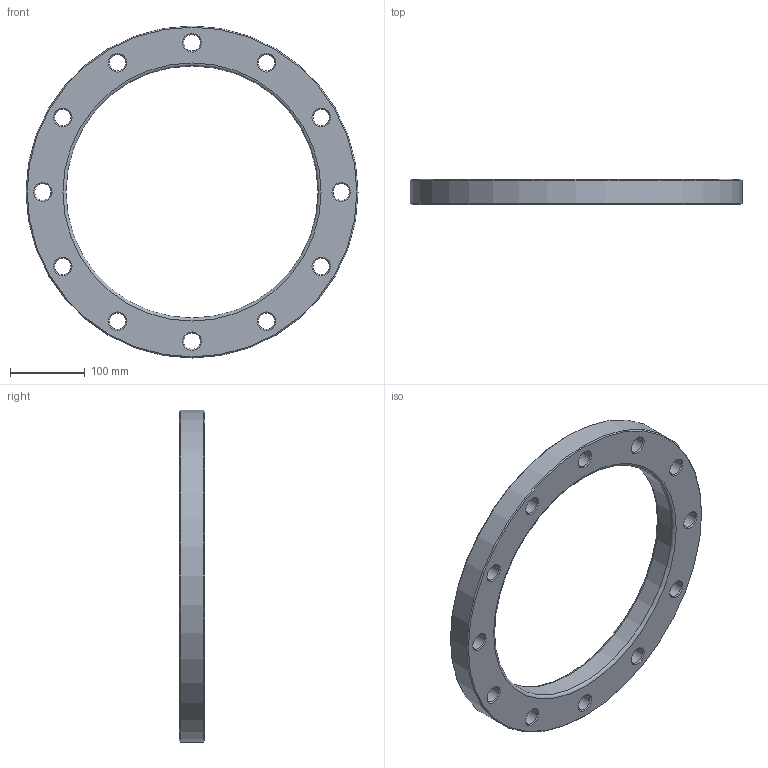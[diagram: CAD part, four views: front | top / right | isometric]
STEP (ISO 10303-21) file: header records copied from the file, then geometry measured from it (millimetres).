
FILE_DESCRIPTION(/* description */ ('Unknown'),/* implementation_level */ '2;1');
FILE_NAME(/* name */ 'FR315B',/* time_stamp */ '2022-07-06T10:19:26+02:00',/* author */ ('Unknown'),/* organization */ ('Unknown'),/* preprocessor_version */ 'ST-DEVELOPER v18.102',/* originating_system */ 'Solid Edge',/* authorisation */ 'Unknown');
FILE_SCHEMA (('AUTOMOTIVE_DESIGN {1 0 10303 214 3 1 1}'));
Length unit declared in the file: millimetre
Products named in the file (1): FR315B
Bounding box: 445 x 34 x 445 mm (x, y, z)
Volume: 2069734.9 mm3; surface area: 226832.4 mm2
Topology: 1 solids, 1 shells, 44 faces, 134 edges, 92 vertices
Faces by surface type: cone 26, cylinder 14, plane 2, torus 2
Full cylindrical faces by diameter (mm): 22 x12, 338 x1, 445 x1
Entity records: 1086 total; most frequent: DIRECTION 202, CARTESIAN_POINT 157, ORIENTED_EDGE 112, EDGE_LOOP 112, FACE_BOUND 112, AXIS2_PLACEMENT_3D 101, EDGE_CURVE 56, VERTEX_POINT 56
